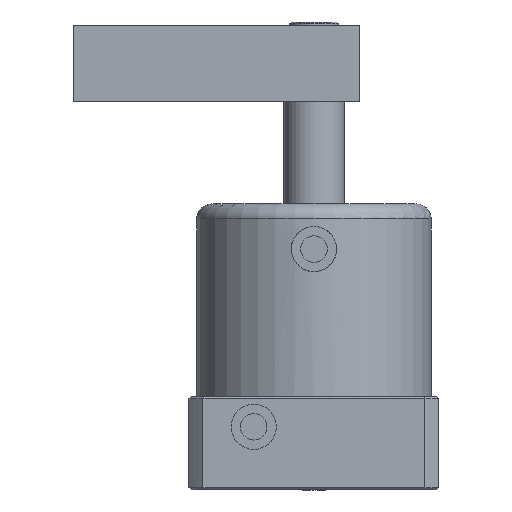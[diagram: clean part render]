
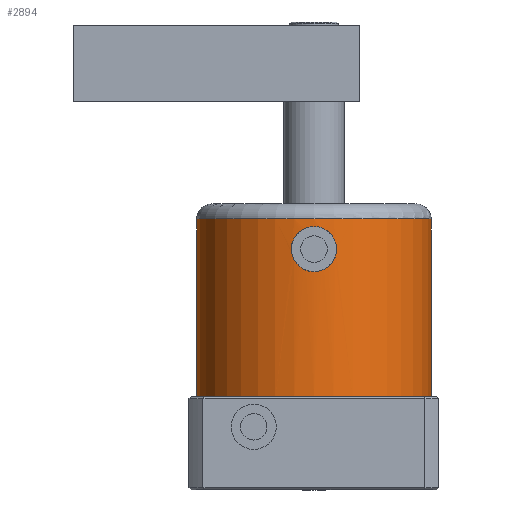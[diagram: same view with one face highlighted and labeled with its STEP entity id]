
A CAD part, front view. The second image highlights one B-rep face of the part: STEP entity #2894.
In plain terms, the highlighted cylindrical face has radius 39 mm (diameter 78 mm), a partial arc.
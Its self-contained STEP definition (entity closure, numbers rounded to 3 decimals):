
#78=LINE('',#4085,#186);
#79=LINE('',#4086,#187);
#186=VECTOR('',#3394,1000.);
#187=VECTOR('',#3395,1000.);
#268=B_SPLINE_CURVE_WITH_KNOTS('',3,(#3874,#3875,#3876,#3877,#3878,#3879,
#3880,#3881,#3882,#3883,#3884,#3885,#3886,#3887,#3888,#3889,#3890,#3891,
#3892),.UNSPECIFIED.,.T.,.F.,(1,1,1,1,1,1,1,1,1,1,1,1,1,1,1,1,1,1,1,1,1,
1,1),(-0.009,-0.006,-0.003,0.,
0.003,0.006,0.009,0.012,
0.015,0.018,0.021,0.024,
0.026,0.029,0.032,0.035,
0.038,0.041,0.044,0.047,
0.05,0.053,0.056),.UNSPECIFIED.);
#322=CYLINDRICAL_SURFACE('',#3074,39.);
#528=ORIENTED_EDGE('',*,*,#951,.F.);
#529=ORIENTED_EDGE('',*,*,#1013,.T.);
#530=ORIENTED_EDGE('',*,*,#1014,.T.);
#531=ORIENTED_EDGE('',*,*,#998,.T.);
#532=ORIENTED_EDGE('',*,*,#1015,.T.);
#951=EDGE_CURVE('',#1211,#1211,#268,.T.);
#998=EDGE_CURVE('',#1237,#1248,#1401,.T.);
#1013=EDGE_CURVE('',#1257,#1258,#1406,.T.);
#1014=EDGE_CURVE('',#1258,#1237,#78,.F.);
#1015=EDGE_CURVE('',#1248,#1257,#79,.T.);
#1211=VERTEX_POINT('',#3893);
#1237=VERTEX_POINT('',#3998);
#1248=VERTEX_POINT('',#4051);
#1257=VERTEX_POINT('',#4083);
#1258=VERTEX_POINT('',#4084);
#1401=CIRCLE('',#3063,39.);
#1406=CIRCLE('',#3075,39.);
#1520=EDGE_LOOP('',(#528));
#1521=EDGE_LOOP('',(#529,#530,#531,#532));
#1719=FACE_BOUND('',#1520,.T.);
#1720=FACE_BOUND('',#1521,.T.);
#2894=ADVANCED_FACE('',(#1719,#1720),#322,.T.);
#3063=AXIS2_PLACEMENT_3D('',#4052,#3358,#3359);
#3074=AXIS2_PLACEMENT_3D('',#4081,#3390,#3391);
#3075=AXIS2_PLACEMENT_3D('',#4082,#3392,#3393);
#3358=DIRECTION('',(0.,0.,-1.));
#3359=DIRECTION('',(0.,1.,0.));
#3390=DIRECTION('',(0.,0.,-1.));
#3391=DIRECTION('',(0.,1.,0.));
#3392=DIRECTION('',(0.,0.,1.));
#3393=DIRECTION('',(0.,-1.,0.));
#3394=DIRECTION('',(0.,0.,-1.));
#3395=DIRECTION('',(0.,0.,-1.));
#3874=CARTESIAN_POINT('',(16.288,4.079,-4.803));
#3875=CARTESIAN_POINT('',(19.252,3.961,-5.398));
#3876=CARTESIAN_POINT('',(22.203,4.079,-4.806));
#3877=CARTESIAN_POINT('',(24.691,4.362,-3.139));
#3878=CARTESIAN_POINT('',(26.356,4.648,-0.652));
#3879=CARTESIAN_POINT('',(26.946,4.768,2.295));
#3880=CARTESIAN_POINT('',(26.359,4.648,5.246));
#3881=CARTESIAN_POINT('',(24.692,4.362,7.74));
#3882=CARTESIAN_POINT('',(22.202,4.078,9.406));
#3883=CARTESIAN_POINT('',(19.253,3.961,9.996));
#3884=CARTESIAN_POINT('',(16.304,4.078,9.409));
#3885=CARTESIAN_POINT('',(13.815,4.361,7.745));
#3886=CARTESIAN_POINT('',(12.146,4.647,5.259));
#3887=CARTESIAN_POINT('',(11.553,4.768,2.305));
#3888=CARTESIAN_POINT('',(12.141,4.648,-0.647));
#3889=CARTESIAN_POINT('',(13.807,4.362,-3.136));
#3890=CARTESIAN_POINT('',(16.288,4.079,-4.803));
#3891=CARTESIAN_POINT('',(19.252,3.961,-5.398));
#3892=CARTESIAN_POINT('',(22.203,4.079,-4.806));
#3893=CARTESIAN_POINT('',(19.25,4.,-5.2));
#3998=CARTESIAN_POINT('',(58.163,40.4,12.3));
#4051=CARTESIAN_POINT('',(-19.663,40.4,12.3));
#4052=CARTESIAN_POINT('',(19.25,43.,12.3));
#4081=CARTESIAN_POINT('',(19.25,43.,17.3));
#4082=CARTESIAN_POINT('',(19.25,43.,-46.7));
#4083=CARTESIAN_POINT('',(-19.663,40.4,-46.7));
#4084=CARTESIAN_POINT('',(58.163,40.4,-46.7));
#4085=CARTESIAN_POINT('',(58.163,40.4,17.3));
#4086=CARTESIAN_POINT('',(-19.663,40.4,17.3));
